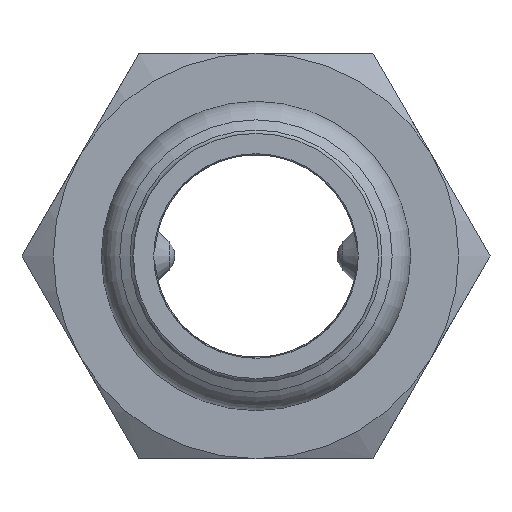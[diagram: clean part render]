
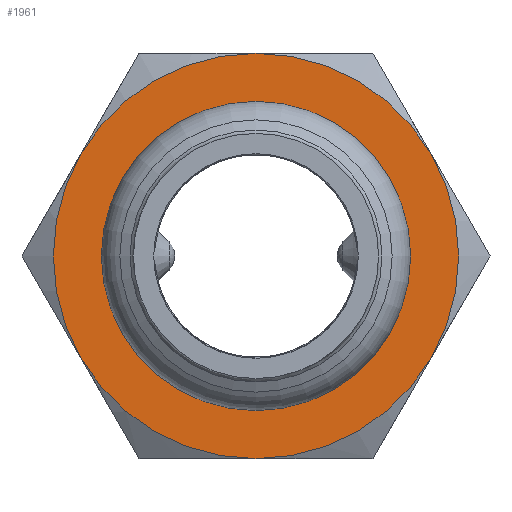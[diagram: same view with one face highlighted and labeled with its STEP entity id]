
A CAD part, left-side view. The second image highlights one B-rep face of the part: STEP entity #1961.
In plain terms, the highlighted planar face has unit normal (-1, 0, 0) as drawn and (0, 0, 1) by its records, which use the part's own axes.
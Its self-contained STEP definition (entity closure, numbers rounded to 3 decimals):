
#1399=CARTESIAN_POINT('',(-12.99,7.5,-6.));
#1400=VERTEX_POINT('',#1399);
#1414=CARTESIAN_POINT('',(-12.99,-7.5,-6.));
#1415=VERTEX_POINT('',#1414);
#1429=CARTESIAN_POINT('',(0.0,0.0,-6.));
#1430=DIRECTION('',(0.0,0.0,1.0));
#1431=DIRECTION('',(1.0,0.0,0.0));
#1432=AXIS2_PLACEMENT_3D('',#1429,#1430,#1431);
#1433=CIRCLE('',#1432,15.0);
#1434=EDGE_CURVE('',#1400,#1415,#1433,.T.);
#1446=CARTESIAN_POINT('',(0.,15.,-6.));
#1447=VERTEX_POINT('',#1446);
#1474=CARTESIAN_POINT('',(0.0,0.0,-6.));
#1475=DIRECTION('',(0.0,0.0,1.0));
#1476=DIRECTION('',(1.0,0.0,0.0));
#1477=AXIS2_PLACEMENT_3D('',#1474,#1475,#1476);
#1478=CIRCLE('',#1477,15.0);
#1479=EDGE_CURVE('',#1447,#1400,#1478,.T.);
#1491=CARTESIAN_POINT('',(12.99,7.5,-6.));
#1492=VERTEX_POINT('',#1491);
#1519=CARTESIAN_POINT('',(0.0,0.0,-6.));
#1520=DIRECTION('',(0.0,0.0,1.0));
#1521=DIRECTION('',(1.0,0.0,0.0));
#1522=AXIS2_PLACEMENT_3D('',#1519,#1520,#1521);
#1523=CIRCLE('',#1522,15.0);
#1524=EDGE_CURVE('',#1492,#1447,#1523,.T.);
#1549=CARTESIAN_POINT('',(12.99,-7.5,-6.));
#1550=VERTEX_POINT('',#1549);
#1551=CARTESIAN_POINT('',(0.0,0.0,-6.));
#1552=DIRECTION('',(0.0,0.0,1.0));
#1553=DIRECTION('',(1.0,0.0,0.0));
#1554=AXIS2_PLACEMENT_3D('',#1551,#1552,#1553);
#1555=CIRCLE('',#1554,15.0);
#1556=EDGE_CURVE('',#1550,#1492,#1555,.T.);
#1594=CARTESIAN_POINT('',(0.0,-15.0,-6.));
#1595=VERTEX_POINT('',#1594);
#1596=CARTESIAN_POINT('',(0.0,0.0,-6.));
#1597=DIRECTION('',(0.0,0.0,1.0));
#1598=DIRECTION('',(1.0,0.0,0.0));
#1599=AXIS2_PLACEMENT_3D('',#1596,#1597,#1598);
#1600=CIRCLE('',#1599,15.0);
#1601=EDGE_CURVE('',#1595,#1550,#1600,.T.);
#1639=CARTESIAN_POINT('',(0.0,0.0,-6.));
#1640=DIRECTION('',(0.0,0.0,1.0));
#1641=DIRECTION('',(1.0,0.0,0.0));
#1642=AXIS2_PLACEMENT_3D('',#1639,#1640,#1641);
#1643=CIRCLE('',#1642,15.0);
#1644=EDGE_CURVE('',#1415,#1595,#1643,.T.);
#1902=CARTESIAN_POINT('',(11.0,0.,-6.));
#1903=VERTEX_POINT('',#1902);
#1904=CARTESIAN_POINT('',(0.0,0.0,-6.));
#1905=DIRECTION('',(0.0,0.0,1.0));
#1906=DIRECTION('',(-1.0,0.0,0.0));
#1907=AXIS2_PLACEMENT_3D('',#1904,#1905,#1906);
#1908=CIRCLE('',#1907,11.0);
#1909=EDGE_CURVE('',#1903,#1903,#1908,.T.);
#1945=CARTESIAN_POINT('',(0.,0.,-6.));
#1946=DIRECTION('',(0.0,0.0,1.0));
#1947=DIRECTION('',(1.0,0.0,0.0));
#1948=AXIS2_PLACEMENT_3D('',#1945,#1946,#1947);
#1949=PLANE('',#1948);
#1950=ORIENTED_EDGE('',*,*,#1644,.T.);
#1951=ORIENTED_EDGE('',*,*,#1601,.T.);
#1952=ORIENTED_EDGE('',*,*,#1556,.T.);
#1953=ORIENTED_EDGE('',*,*,#1524,.T.);
#1954=ORIENTED_EDGE('',*,*,#1479,.T.);
#1955=ORIENTED_EDGE('',*,*,#1434,.T.);
#1956=EDGE_LOOP('',(#1950,#1951,#1952,#1953,#1954,#1955));
#1957=FACE_OUTER_BOUND('',#1956,.T.);
#1958=ORIENTED_EDGE('',*,*,#1909,.F.);
#1959=EDGE_LOOP('',(#1958));
#1960=FACE_BOUND('',#1959,.T.);
#1961=ADVANCED_FACE('',(#1957,#1960),#1949,.T.);
